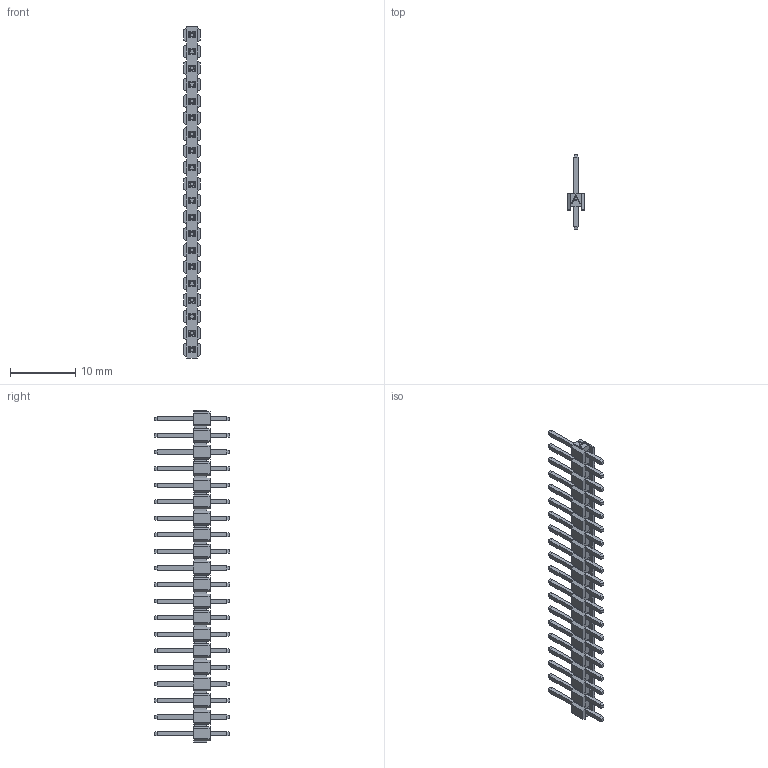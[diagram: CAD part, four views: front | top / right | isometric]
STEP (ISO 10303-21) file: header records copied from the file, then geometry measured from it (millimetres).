
FILE_DESCRIPTION (( 'STEP AP203' ), '1' );
FILE_NAME ('CH3120xVA00-NH.STEP', '2018-08-08T08:06:36', ( '' ), ( '' ), 'SwSTEP 2.0', 'SolidWorks 2017', '' );
FILE_SCHEMA (( 'CONFIG_CONTROL_DESIGN' ));
Length unit declared in the file: millimetre
Products named in the file (3): CH3120xVA00-NH; CH31- BASE_20; PIN
Assembly tree (21 placements, depth 2):
  CH3120xVA00-NH
    CH31- BASE_20
    PIN  x20
Bounding box: 2.54 x 11.54 x 50.9 mm (x, y, z)
Volume: 326.4 mm3; surface area: 1271.5 mm2
Topology: 21 solids, 21 shells, 756 faces, 1744 edges, 1032 vertices
Faces by surface type: plane 756
Entity records: 14869 total; most frequent: CARTESIAN_POINT 2454, ORIENTED_EDGE 2424, DIRECTION 2240, VECTOR 1212, LINE 1212, EDGE_CURVE 1212, VERTEX_POINT 728, EDGE_LOOP 532
